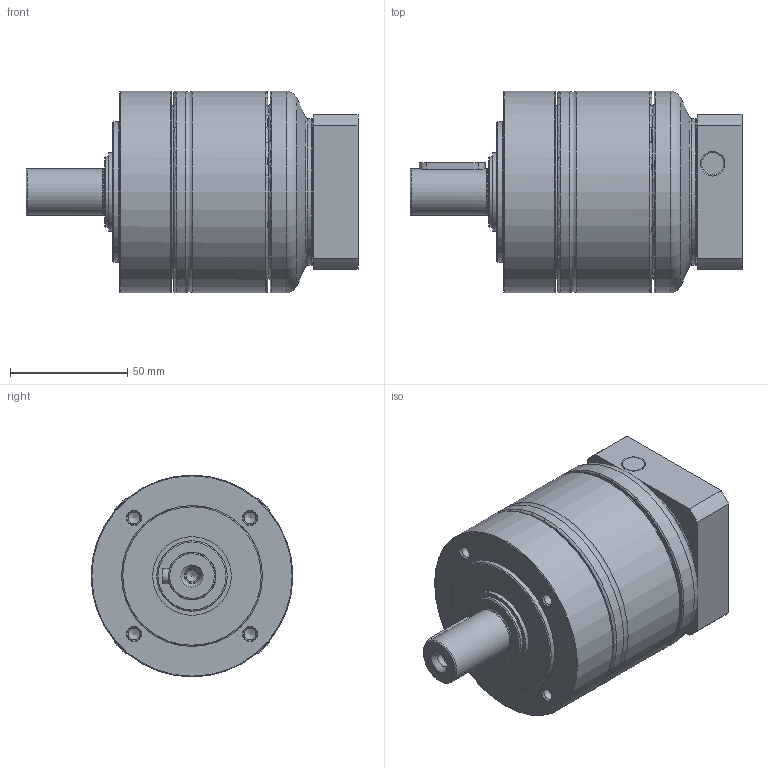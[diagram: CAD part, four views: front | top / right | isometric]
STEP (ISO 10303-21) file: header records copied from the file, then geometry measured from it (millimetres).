
FILE_DESCRIPTION(/* description */ (''),/* implementation_level */ '2;1');
FILE_NAME(/* name */ 'D:\vault\F-JPカタログデータ_byMK\差替え減速機_2023\PG2-080-XXX_200W_400W.stp',/* time_stamp */ '2023-08-29T18:26:28+09:00',/* author */ ('jp6u7013'),/* organization */ (''),/* preprocessor_version */ 'ST-DEVELOPER v18.1',/* originating_system */ 'Autodesk Inventor 2021',/* authorisation */ '');
FILE_SCHEMA (('AUTOMOTIVE_DESIGN { 1 0 10303 214 3 1 1 }'));
Length unit declared in the file: inch
Products named in the file (1): PG2-080-XXX_200W_400W_P0411304905
Bounding box: 141.5 x 86 x 86 mm (x, y, z)
Volume: 381144.2 mm3; surface area: 89442.6 mm2
Topology: 7 solids, 17 shells, 199 faces, 487 edges, 322 vertices
Faces by surface type: cylinder 70, plane 62, cone 26, torus 25, bspline 16
Full cylindrical faces by diameter (mm): 4.2 x4, 4.3 x1, 4.5 x4, 5 x9, 5.1 x1, 5.6 x1, 6 x5, 6.4 x1, 9.5 x6, 14 x1, 14.9 x1, 17 x1, 19.6 x1, 20 x2, 26 x1, 30 x1, 33.5 x1, 43.5 x1, 59.8 x1, 60 x1, 62.5 x1, 68.9 x1, 73.637 x2, 86 x4
Entity records: 11967 total; most frequent: CARTESIAN_POINT 7158, DIRECTION 1026, ORIENTED_EDGE 933, EDGE_CURVE 477, AXIS2_PLACEMENT_3D 429, VERTEX_POINT 322, EDGE_LOOP 247, CIRCLE 229
